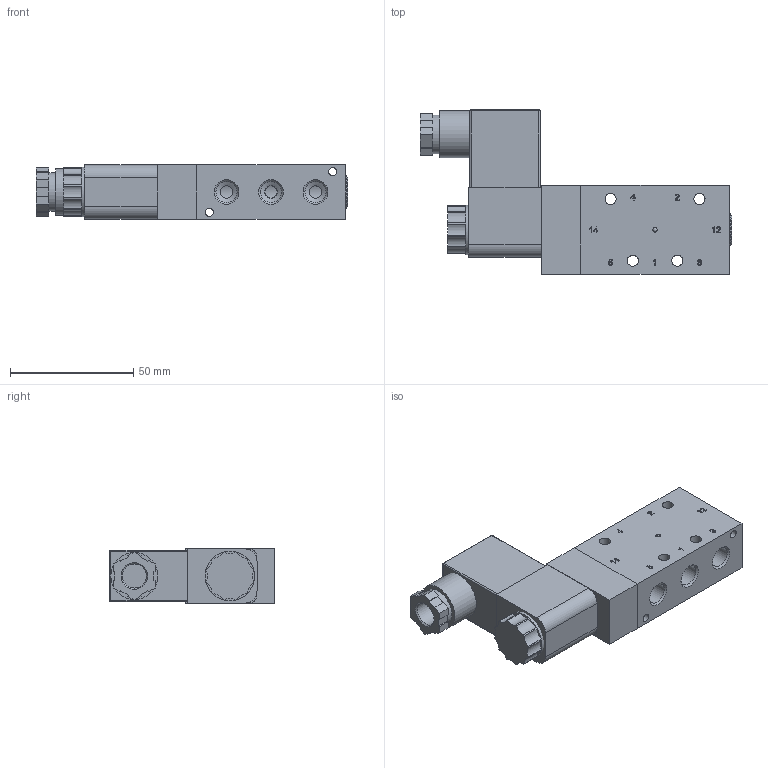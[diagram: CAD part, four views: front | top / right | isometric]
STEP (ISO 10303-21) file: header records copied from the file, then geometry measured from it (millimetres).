
FILE_DESCRIPTION(/* description */ ('Unknown'),/* implementation_level */ '2;1');
FILE_NAME(/* name */ 'MH 510 501 G TT + MA 22 24V DC + ST 22 M',/* time_stamp */ '2018-05-28T07:02:07+02:00',/* author */ ('Unknown'),/* organization */ ('Unknown'),/* preprocessor_version */ 'ST-DEVELOPER v16.7',/* originating_system */ 'DEX',/* authorisation */ $);
FILE_SCHEMA (('AUTOMOTIVE_DESIGN {1 0 10303 214 3 1 1}'));
Length unit declared in the file: millimetre
Products named in the file (2): Asm1
Assembly tree (1 placements, depth 2):
  Asm1
    Asm1
Bounding box: 126 x 66.7 x 22 mm (x, y, z)
Volume: 91250.5 mm3; surface area: 31855.2 mm2
Topology: 6 solids, 6 shells, 564 faces, 1460 edges, 966 vertices
Faces by surface type: plane 356, cylinder 102, bspline 75, cone 25, sphere 5, torus 1
Full cylindrical faces by diameter (mm): 1.5 x3, 1.6 x1, 1.85 x1, 2.459 x8, 2.5 x2, 3.236 x1, 3.3 x2, 4.5 x4, 5 x5, 5.6 x4, 6 x1, 6.1 x1, 7.3 x1, 8 x1, 8.15 x1, 8.5 x1, 8.566 x10, 9 x2, 9.15 x1, 9.75 x1, 11.6 x1, 12 x1, 12.06 x1, 13 x1, 14.5 x1, 15.6 x1, 16 x2, 19 x1, 20 x1
Entity records: 21413 total; most frequent: CARTESIAN_POINT 4664, ORIENTED_EDGE 2630, DIRECTION 2349, EDGE_CURVE 1315, VERTEX_POINT 921, LINE 921, VECTOR 921, FACE_BOUND 762
